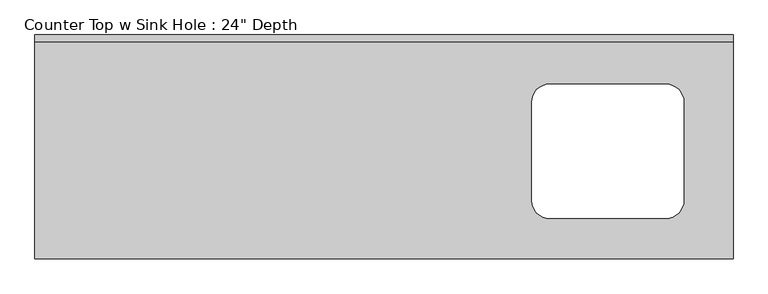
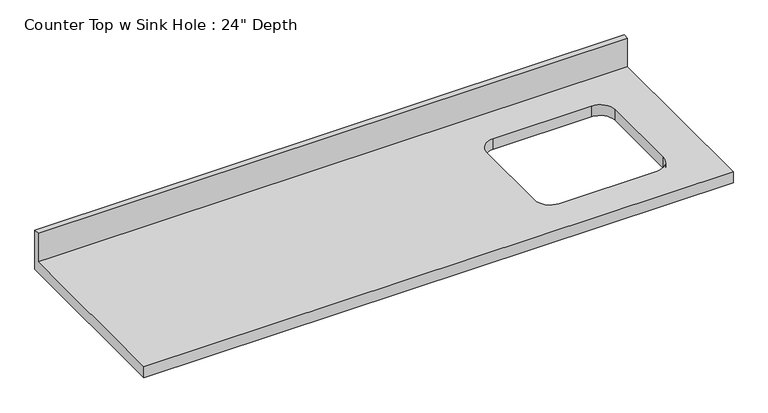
"""IFC4 building model written with IfcOpenShell, lengths in millimetres: furniture geometry."""

import ifcopenshell
import ifcopenshell.guid

model = None  # the IFC model being written
_history = None  # IfcOwnerHistory: only IFC2X3 demands one
_inside = {}  # id of a spatial element -> (the spatial element, [elements in it])
_under = {}  # id of a project, library or spatial element -> (it, [spatial elements below it])
_declared = {}  # id of a project -> (the project, [libraries it declares])
_typed = {}  # id of a type object -> (the type object, [elements of that type])
_made_of = {}  # id of a material, layer set ... -> (it, [elements and type objects made of it])


def new_model(schema):
    """Start an empty IFC model of exactly this schema.

    Asked for "IFC4X3", IfcOpenShell would pick the latest addendum, in which some entities
    have other attributes; the version numbers below select the first issue.
    IFC2X3 requires an IfcOwnerHistory on every rooted entity: one is made here for all.
    """
    global model, _history
    if schema == "IFC4X3":
        model = ifcopenshell.file(schema_version=(4, 3, 0, 0))
    else:
        model = ifcopenshell.file(schema=schema)
    _inside.clear()
    _under.clear()
    _declared.clear()
    _typed.clear()
    _made_of.clear()
    _history = None
    if model.schema == "IFC2X3":
        org = make("IfcOrganization", Name="unknown")
        user = make(
            "IfcPersonAndOrganization",
            ThePerson=make("IfcPerson", FamilyName="unknown"),
            TheOrganization=org,
        )
        app = make(
            "IfcApplication",
            ApplicationDeveloper=org,
            Version="unknown",
            ApplicationFullName="unknown",
            ApplicationIdentifier="unknown",
        )
        _history = make(
            "IfcOwnerHistory",
            OwningUser=user,
            OwningApplication=app,
            ChangeAction="ADDED",
            CreationDate=0,
        )
    return model


def make(cls, **values):
    """One entity of the class cls with the attributes given. An attribute that is None is left unset."""
    return model.create_entity(
        cls, **{name: value for name, value in values.items() if value is not None}
    )


def rooted(cls, **values):
    """An entity with a GlobalId (a new one), such as an element, a storey or a relation."""
    return make(cls, GlobalId=ifcopenshell.guid.new(), OwnerHistory=_history, **values)


def si_unit(unit_type, name, prefix=None):
    """IfcSIUnit, for example si_unit("LENGTHUNIT", "METRE", prefix="MILLI")."""
    return make("IfcSIUnit", UnitType=unit_type, Prefix=prefix, Name=name)


def assignment(units):
    """IfcUnitAssignment: the units of a project."""
    return None if units is None else make("IfcUnitAssignment", Units=units)


def point(xyz):
    """IfcCartesianPoint."""
    return None if xyz is None else make("IfcCartesianPoint", Coordinates=xyz)


def direction(xyz):
    """IfcDirection."""
    return None if xyz is None else make("IfcDirection", DirectionRatios=xyz)


def frame(location, z_axis=None, x_axis=None):
    """IfcAxis2Placement3D, a coordinate frame: its origin and axes. An axis left out is left unset."""
    return make(
        "IfcAxis2Placement3D",
        Location=point(location),
        Axis=direction(z_axis),
        RefDirection=direction(x_axis),
    )


def origin():
    """The frame at (0, 0, 0) with its axes left unset."""
    return frame((0.0, 0.0, 0.0))


def place(relative_to, where):
    """IfcLocalPlacement: puts the frame where relative to a parent placement (None: the world)."""
    return make(
        "IfcLocalPlacement", PlacementRelTo=relative_to, RelativePlacement=where
    )


def context(
    kind, dimensions, precision=None, world=None, true_north=None, identifier=None
):
    """IfcGeometricRepresentationContext, for example the 3D "Model" context."""
    return make(
        "IfcGeometricRepresentationContext",
        ContextIdentifier=identifier,
        ContextType=kind,
        CoordinateSpaceDimension=dimensions,
        Precision=precision,
        WorldCoordinateSystem=world,
        TrueNorth=true_north,
    )


def project(units=None, contexts=None):
    """IfcProject with its units and contexts."""
    return rooted(
        "IfcProject",
        Name="project",
        RepresentationContexts=contexts,
        UnitsInContext=assignment(units),
    )


def spatial(cls, under=None, at=None, **own):
    """A site, building, storey or space (cls), placed at a placement, below another one or the project."""
    s = rooted(cls, ObjectPlacement=at, **own)
    if under is not None:
        _under.setdefault(under.id(), (under, []))[1].append(s)
    return s


def polyline(points):
    """IfcPolyline through the points."""
    return make("IfcPolyline", Points=[point(p) for p in points])


def circle_curve(where, radius):
    """IfcCircle in the frame where."""
    return make("IfcCircle", Position=where, Radius=radius)


def shape(context_of_items, identifier, shape_type, items):
    """IfcShapeRepresentation: the items that make up one representation, for example the "Body"."""
    return make(
        "IfcShapeRepresentation",
        ContextOfItems=context_of_items,
        RepresentationIdentifier=identifier,
        RepresentationType=shape_type,
        Items=items,
    )


def source(mapping_origin, context_of_items, identifier, shape_type, items):
    """IfcRepresentationMap: a shape defined once, which mapped items show again and again."""
    return make(
        "IfcRepresentationMap",
        MappingOrigin=mapping_origin,
        MappedRepresentation=shape(context_of_items, identifier, shape_type, items),
    )


def transform(
    local_origin,
    x_axis=None,
    y_axis=None,
    z_axis=None,
    scale=None,
    scale2=None,
    scale3=None,
    uniform=True,
):
    """IfcCartesianTransformationOperator3D, or its non-uniform kind. x_axis, y_axis, z_axis: its Axis1, 2, 3."""
    if uniform:
        return make(
            "IfcCartesianTransformationOperator3D",
            Axis1=direction(x_axis),
            Axis2=direction(y_axis),
            LocalOrigin=point(local_origin),
            Scale=scale,
            Axis3=direction(z_axis),
        )
    return make(
        "IfcCartesianTransformationOperator3DnonUniform",
        Axis1=direction(x_axis),
        Axis2=direction(y_axis),
        LocalOrigin=point(local_origin),
        Scale=scale,
        Axis3=direction(z_axis),
        Scale2=scale2,
        Scale3=scale3,
    )


def mapped(mapping_source, mapping_target):
    """IfcMappedItem: shows the shape of a source again, moved by a transform."""
    return make(
        "IfcMappedItem", MappingSource=mapping_source, MappingTarget=mapping_target
    )


def made_of(thing, what):
    """Note that an element or type object is made of a material, layer set ...; save() writes the relation."""
    if what is not None:
        _made_of.setdefault(what.id(), (what, []))[1].append(thing)
    return thing


def element(
    cls,
    number,
    at=None,
    inside=None,
    cuts=None,
    type_object=None,
    material=None,
    context=None,
    identifier="Body",
    shape_type=None,
    held_by="IfcProductDefinitionShape",
    body=None,
    shapes=None,
    **own,
):
    """One element of the class cls, such as IfcWall. Its Tag is "e" and its number.

    at: its placement. inside: the storey or other place that contains it. cuts: it is an
    opening in that element (IfcRelVoidsElement). A single representation is given by context,
    identifier, shape_type and body (its items); several are given by shapes. held_by: the class
    of the entity that holds the representations. save() writes the other relations.
    """
    e = rooted(cls, Tag="e%d" % number, ObjectPlacement=at, **own)
    if body is not None:
        shapes = [shape(context, identifier, shape_type, body)]
    if shapes is not None:
        e.Representation = make(held_by, Representations=shapes)
    if inside is not None:
        _inside.setdefault(inside.id(), (inside, []))[1].append(e)
    if cuts is not None:
        rooted(
            "IfcRelVoidsElement", RelatingBuildingElement=cuts, RelatedOpeningElement=e
        )
    if type_object is not None:
        _typed.setdefault(type_object.id(), (type_object, []))[1].append(e)
    return made_of(e, material)


def aggregate(whole, parts):
    """IfcRelAggregates: a whole, such as a stair, and the parts it consists of."""
    return rooted("IfcRelAggregates", RelatingObject=whole, RelatedObjects=parts)


def save(model, path):
    """Write the relations noted so far, then the file.

    IfcRelAggregates (storeys below a building ...), IfcRelContainedInSpatialStructure (elements
    in a storey), IfcRelDefinesByType, IfcRelAssociatesMaterial and IfcRelDeclares: one each for
    every whole, place, type object, material and project.
    """
    for whole, parts in _under.values():
        aggregate(whole, parts)
    for where, things in _inside.values():
        rooted(
            "IfcRelContainedInSpatialStructure",
            RelatedElements=things,
            RelatingStructure=where,
        )
    for kind, things in _typed.values():
        rooted("IfcRelDefinesByType", RelatedObjects=things, RelatingType=kind)
    for what, things in _made_of.values():
        rooted("IfcRelAssociatesMaterial", RelatedObjects=things, RelatingMaterial=what)
    for by, libraries in _declared.values():
        rooted("IfcRelDeclares", RelatingContext=by, RelatedDefinitions=libraries)
    model.write(path)


def plane_surface(at):
    """IfcPlane: the flat surface through the origin of the frame at, square to its z axis."""
    return make("IfcPlane", Position=at)


def revolved_surface(curve, axis_point, axis_direction):
    """IfcSurfaceOfRevolution: the curve turned about the line through axis_point along axis_direction."""
    return make(
        "IfcSurfaceOfRevolution",
        SweptCurve=make("IfcArbitraryOpenProfileDef", ProfileType="CURVE", Curve=curve),
        AxisPosition=make("IfcAxis1Placement", Location=point(axis_point), Axis=direction(axis_direction)),
    )


def advanced_brep(points, edges, surfaces, faces):
    """IfcAdvancedBrep: a solid bounded by faces that lie on surfaces and meet in shared edges.

    An edge is (start, end): straight between two places in points (the first is 0);
    or (start, end, curve); or (start, end, curve, False) where it runs against its curve.
    A face is (place in surfaces, loops), or (place, loops, False) where it looks against
    its surface's normal. A loop lists edges by number (the first is 1), with a minus sign
    where the edge is run from its end to its start. The first loop is the outer one.
    """
    corners = [point(p) for p in points]
    vertices = [make("IfcVertexPoint", VertexGeometry=c) for c in corners]
    made = []
    for start, end, *more in edges:
        made.append(
            make(
                "IfcEdgeCurve",
                EdgeStart=vertices[start],
                EdgeEnd=vertices[end],
                EdgeGeometry=more[0] if more else make("IfcPolyline", Points=[corners[start], corners[end]]),
                SameSense=more[1] if len(more) > 1 else True,
            )
        )
    hull = []
    for where, loops, *sense in faces:
        bounds = []
        for j, loop in enumerate(loops):
            ring = [make("IfcOrientedEdge", EdgeElement=made[abs(k) - 1], Orientation=k > 0) for k in loop]
            bounds.append(
                make(
                    "IfcFaceOuterBound" if j == 0 else "IfcFaceBound",
                    Bound=make("IfcEdgeLoop", EdgeList=ring),
                    Orientation=True,
                )
            )
        hull.append(make("IfcAdvancedFace", Bounds=bounds, FaceSurface=surfaces[where], SameSense=sense[0] if sense else True))
    return make("IfcAdvancedBrep", Outer=make("IfcClosedShell", CfsFaces=hull))


def furniture_dc2eca4b(model_context):
    return source(origin(), model_context, "Body", "AdvancedBrep", [
        advanced_brep(
        [(-1200.4622951, -635.0, 914.4), (780.7377049, -635.0, 914.4), (780.7377049, -19.05, 914.4), (-1200.4622951, -19.05, 914.4), (260.0377049, -139.7, 914.4), (590.2377049, -139.7, 914.4), (641.0377049, -190.5, 914.4), (641.0377049, -469.9, 914.4), (590.2377049, -520.7, 914.4), (260.0377049, -520.7, 914.4), (209.2377049, -469.9, 914.4), (209.2377049, -190.5, 914.4), (780.7377049, 0.0, 876.3), (780.7377049, -635.0, 876.3), (-1200.4622951, -635.0, 876.3), (-1200.4622951, 0.0, 876.3), (590.2377049, -139.7, 876.3), (260.0377049, -139.7, 876.3), (209.2377049, -190.5, 876.3), (209.2377049, -469.9, 876.3), (260.0377049, -520.7, 876.3), (590.2377049, -520.7, 876.3), (641.0377049, -469.9, 876.3), (641.0377049, -190.5, 876.3), (-1200.4622951, 0.0, 1016.0), (780.7377049, 0.0, 1016.0), (-1200.4622951, -19.05, 1016.0), (780.7377049, -19.05, 1016.0)],
        [
            (0, 1),
            (1, 2),
            (2, 3),
            (3, 0),
            (4, 5),
            (5, 6, circle_curve(frame((590.2377049, -190.5, 914.4), z_axis=(0.0, 0.0, -1.0), x_axis=(1.0, 0.0, 0.0)), 50.8)),
            (6, 7),
            (7, 8, circle_curve(frame((590.2377049, -469.9, 914.4), z_axis=(0.0, 0.0, -1.0), x_axis=(1.0, 0.0, 0.0)), 50.8)),
            (8, 9),
            (9, 10, circle_curve(frame((260.0377049, -469.9, 914.4), z_axis=(0.0, 0.0, -1.0), x_axis=(1.0, 0.0, 0.0)), 50.8)),
            (10, 11),
            (11, 4, circle_curve(frame((260.0377049, -190.5, 914.4), z_axis=(0.0, 0.0, -1.0), x_axis=(1.0, 0.0, 0.0)), 50.8)),
            (12, 13),
            (13, 14),
            (14, 15),
            (15, 12),
            (16, 17),
            (17, 18, circle_curve(frame((260.0377049, -190.5, 876.3), z_axis=(0.0, 0.0, 1.0), x_axis=(1.0, 0.0, 0.0)), 50.8)),
            (18, 19),
            (19, 20, circle_curve(frame((260.0377049, -469.9, 876.3), z_axis=(0.0, 0.0, 1.0), x_axis=(1.0, 0.0, 0.0)), 50.8)),
            (20, 21),
            (21, 22, circle_curve(frame((590.2377049, -469.9, 876.3), z_axis=(0.0, 0.0, 1.0), x_axis=(1.0, 0.0, 0.0)), 50.8)),
            (22, 23),
            (23, 16, circle_curve(frame((590.2377049, -190.5, 876.3), z_axis=(0.0, 0.0, 1.0), x_axis=(1.0, 0.0, 0.0)), 50.8)),
            (15, 24),
            (24, 25),
            (25, 12),
            (14, 0),
            (3, 26),
            (26, 24),
            (13, 1),
            (25, 27),
            (27, 2),
            (4, 17),
            (16, 5),
            (11, 18),
            (10, 19),
            (9, 20),
            (8, 21),
            (7, 22),
            (6, 23),
            (26, 27),
        ],
        [
            plane_surface(frame((-1200.4622951, 0.0, 914.4), z_axis=(0.0, 0.0, 1.0), x_axis=(-1.0, 0.0, 0.0))),
            plane_surface(frame((-1200.4622951, 0.0, 876.3), z_axis=(0.0, 0.0, -1.0), x_axis=(1.0, 0.0, 0.0))),
            plane_surface(frame((780.7377049, 0.0, 914.4), z_axis=(0.0, 1.0, 0.0), x_axis=(0.0, 0.0, -1.0))),
            plane_surface(frame((-1200.4622951, 0.0, 914.4), z_axis=(-1.0, 0.0, 0.0), x_axis=(0.0, 0.0, -1.0))),
            plane_surface(frame((-1200.4622951, -635.0, 914.4), z_axis=(0.0, -1.0, 0.0), x_axis=(0.0, 0.0, -1.0))),
            plane_surface(frame((780.7377049, -635.0, 914.4), z_axis=(1.0, 0.0, 0.0), x_axis=(0.0, 0.0, -1.0))),
            plane_surface(frame((590.2377049, -139.7, 914.4), z_axis=(0.0, -1.0, 0.0), x_axis=(0.0, 0.0, -1.0))),
            revolved_surface(polyline([(310.8377049, -190.5, 914.4), (310.8377049, -190.5, 876.3)]), (260.0377049, -190.5, 876.3), (0.0, 0.0, 1.0)),
            plane_surface(frame((209.2377049, -190.5, 914.4), z_axis=(1.0, 0.0, 0.0), x_axis=(0.0, 0.0, -1.0))),
            revolved_surface(polyline([(310.8377049, -469.9, 914.4), (310.8377049, -469.9, 876.3)]), (260.0377049, -469.9, 876.3), (0.0, 0.0, 1.0)),
            plane_surface(frame((260.0377049, -520.7, 914.4), z_axis=(0.0, 1.0, 0.0), x_axis=(0.0, 0.0, -1.0))),
            revolved_surface(polyline([(641.0377049, -469.9, 914.4), (641.0377049, -469.9, 876.3)]), (590.2377049, -469.9, 876.3), (0.0, 0.0, 1.0)),
            plane_surface(frame((641.0377049, -469.9, 914.4), z_axis=(-1.0, 0.0, 0.0), x_axis=(0.0, 0.0, -1.0))),
            revolved_surface(polyline([(641.0377049, -190.5, 914.4), (641.0377049, -190.5, 876.3)]), (590.2377049, -190.5, 876.3), (0.0, 0.0, 1.0)),
            plane_surface(frame((-1200.4622951, 0.0, 1016.0), z_axis=(0.0, 0.0, 1.0), x_axis=(0.0, -1.0, 0.0))),
            plane_surface(frame((-1200.4622951, -19.05, 1016.0), z_axis=(0.0, -1.0, 0.0), x_axis=(0.0, 0.0, -1.0))),
        ],
        [
            (0, [[1, 2, 3, 4], [5, 6, 7, 8, 9, 10, 11, 12]]),
            (1, [[13, 14, 15, 16], [17, 18, 19, 20, 21, 22, 23, 24]]),
            (2, [[-16, 25, 26, 27]]),
            (3, [[-15, 28, -4, 29, 30, -25]]),
            (4, [[-1, -28, -14, 31]]),
            (5, [[-13, -27, 32, 33, -2, -31]]),
            (6, [[34, -17, 35, -5]]),
            (7, [[-34, -12, 36, -18]]),
            (8, [[-36, -11, 37, -19]]),
            (9, [[-37, -10, 38, -20]]),
            (10, [[-38, -9, 39, -21]]),
            (11, [[-39, -8, 40, -22]]),
            (12, [[-40, -7, 41, -23]]),
            (13, [[-35, -24, -41, -6]]),
            (14, [[-30, 42, -32, -26]]),
            (15, [[-42, -29, -3, -33]]),
        ],
    ),
    ])


if __name__ == "__main__":
    model = new_model("IFC4")
    model_context = context("Model", 3, world=origin())
    ifc_project = project(units=[si_unit("LENGTHUNIT", "METRE", prefix="MILLI")], contexts=[model_context])
    site = spatial("IfcSite", under=ifc_project)
    building = spatial("IfcBuilding", under=site)
    placement = place(None, origin())
    furniture_shape = furniture_dc2eca4b(model_context)
    element("IfcFurniture", 1, ObjectType="Counter Top w Sink Hole : 24\" Depth", at=placement, inside=building, context=model_context, shape_type="MappedRepresentation", body=[
        mapped(furniture_shape, transform((0.0, 0.0, 0.0), x_axis=(1.0, 0.0, 0.0), y_axis=(0.0, 1.0, 0.0), z_axis=(0.0, 0.0, 1.0))),
    ])
    save(model, "model.ifc")
